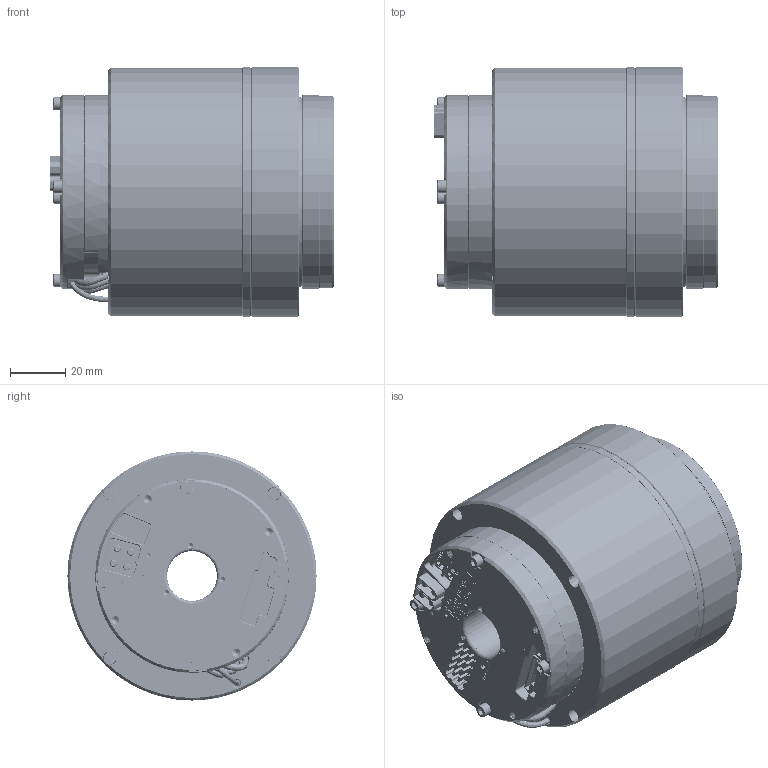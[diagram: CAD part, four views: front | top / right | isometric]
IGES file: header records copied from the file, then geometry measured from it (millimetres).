
Start section: SolidWorks IGES file using analytic representation for surfaces
Global section: file name: 06HG:\李鸿彬\00 官网需更新模型\00官网需更新模型 源文件\I型 待整理\检查\eRob90H××I-XX-18CX_V3_MC2A.DX.XX.igs; native system: SolidWorks 2021; preprocessor: SolidWorks 2021; author: ZERO; date: 240521.183735; units: millimetre
Bounding box: 102.3 x 90 x 90 mm (x, y, z)
Surface area: 60781.1 mm2 (no closed solid volume)
Topology: 0 solids, 0 shells, 4509 faces, 60055 edges, 59957 vertices
Faces by surface type: bspline 2619, revolution 1890
